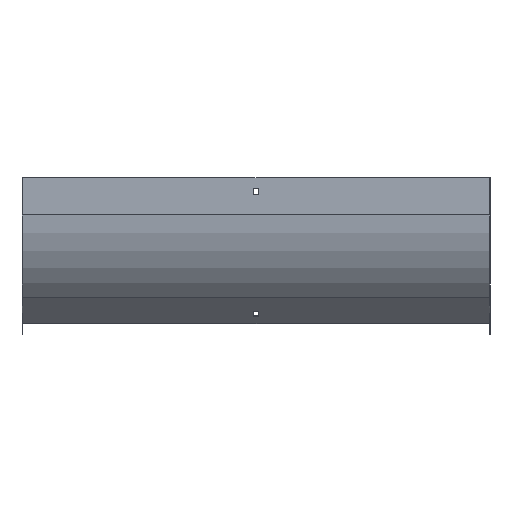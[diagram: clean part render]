
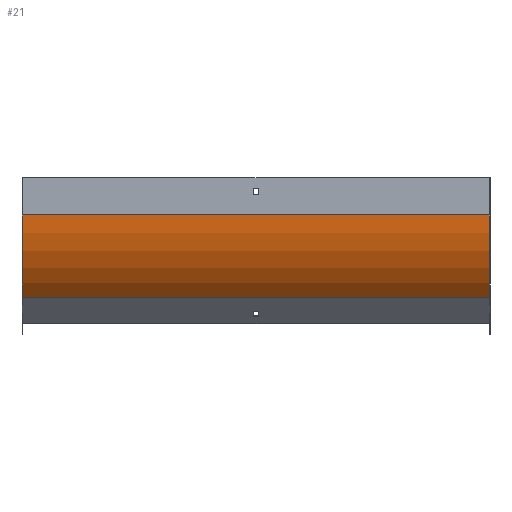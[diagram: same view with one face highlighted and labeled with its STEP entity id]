
A CAD part, front view. The second image highlights one B-rep face of the part: STEP entity #21.
In plain terms, the highlighted cylindrical face has radius 125 mm (diameter 250 mm), a partial arc.
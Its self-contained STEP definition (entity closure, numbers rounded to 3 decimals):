
#17 = AXIS2_PLACEMENT_3D ( 'NONE', #693, #605, #96 ) ;
#21 = ADVANCED_FACE ( 'NONE', ( #810 ), #275, .T. ) ;
#35 = CARTESIAN_POINT ( 'NONE',  ( 251., 124., -40. ) ) ;
#66 = DIRECTION ( 'NONE',  ( -1., 0., 0. ) ) ;
#96 = DIRECTION ( 'NONE',  ( 0., 0., -1. ) ) ;
#114 = DIRECTION ( 'NONE',  ( -1., 0., 0. ) ) ;
#164 = CARTESIAN_POINT ( 'NONE',  ( -250., -1., -40. ) ) ;
#182 = DIRECTION ( 'NONE',  ( -1., 0., 0. ) ) ;
#207 = ORIENTED_EDGE ( 'NONE', *, *, #641, .F. ) ;
#261 = VERTEX_POINT ( 'NONE', #569 ) ;
#275 = CYLINDRICAL_SURFACE ( 'NONE', #856, 125. ) ;
#296 = CARTESIAN_POINT ( 'NONE',  ( 251., -1., -40. ) ) ;
#329 = ORIENTED_EDGE ( 'NONE', *, *, #540, .T. ) ;
#358 = VERTEX_POINT ( 'NONE', #725 ) ;
#380 = CIRCLE ( 'NONE', #17, 125. ) ;
#418 = EDGE_LOOP ( 'NONE', ( #761, #207, #329, #799 ) ) ;
#440 = EDGE_CURVE ( 'NONE', #261, #581, #778, .T. ) ;
#504 = VECTOR ( 'NONE', #182, 1000. ) ;
#508 = LINE ( 'NONE', #782, #633 ) ;
#540 = EDGE_CURVE ( 'NONE', #673, #358, #380, .T. ) ;
#569 = CARTESIAN_POINT ( 'NONE',  ( -250., 35.612, -128.388 ) ) ;
#581 = VERTEX_POINT ( 'NONE', #164 ) ;
#598 = CARTESIAN_POINT ( 'NONE',  ( -250., 124., -40. ) ) ;
#605 = DIRECTION ( 'NONE',  ( -1., 0., 0. ) ) ;
#623 = LINE ( 'NONE', #296, #504 ) ;
#631 = EDGE_CURVE ( 'NONE', #358, #581, #623, .T. ) ;
#633 = VECTOR ( 'NONE', #114, 1000. ) ;
#641 = EDGE_CURVE ( 'NONE', #673, #261, #508, .T. ) ;
#673 = VERTEX_POINT ( 'NONE', #845 ) ;
#693 = CARTESIAN_POINT ( 'NONE',  ( 250., 124., -40. ) ) ;
#725 = CARTESIAN_POINT ( 'NONE',  ( 250., -1., -40. ) ) ;
#728 = DIRECTION ( 'NONE',  ( 0., 0., -1. ) ) ;
#749 = DIRECTION ( 'NONE',  ( -1., 0., 0. ) ) ;
#754 = AXIS2_PLACEMENT_3D ( 'NONE', #598, #66, #728 ) ;
#761 = ORIENTED_EDGE ( 'NONE', *, *, #440, .F. ) ;
#778 = CIRCLE ( 'NONE', #754, 125. ) ;
#782 = CARTESIAN_POINT ( 'NONE',  ( 251., 35.612, -128.388 ) ) ;
#799 = ORIENTED_EDGE ( 'NONE', *, *, #631, .T. ) ;
#810 = FACE_OUTER_BOUND ( 'NONE', #418, .T. ) ;
#826 = DIRECTION ( 'NONE',  ( 0., 0., 1. ) ) ;
#845 = CARTESIAN_POINT ( 'NONE',  ( 250., 35.612, -128.388 ) ) ;
#856 = AXIS2_PLACEMENT_3D ( 'NONE', #35, #749, #826 ) ;
